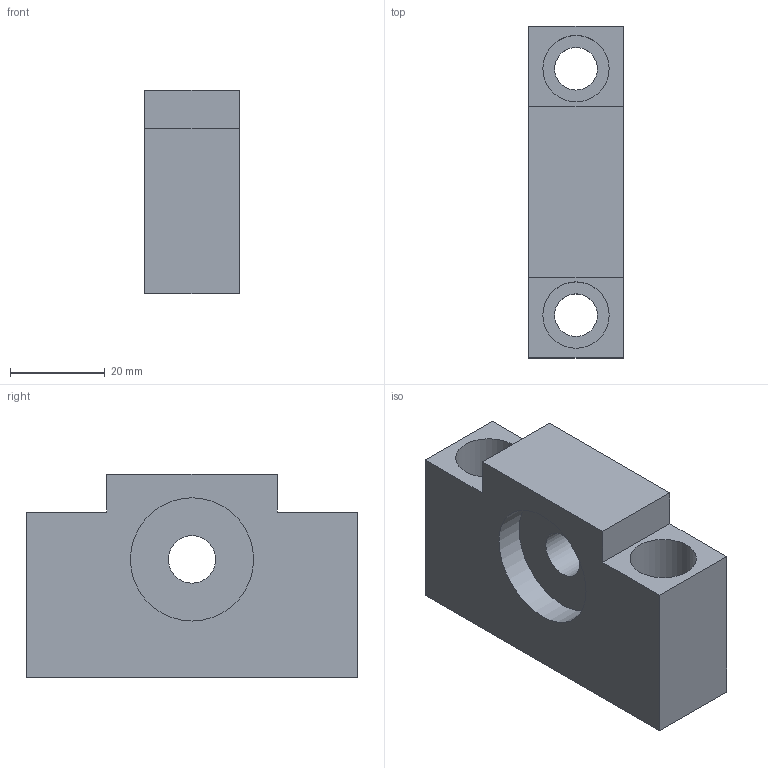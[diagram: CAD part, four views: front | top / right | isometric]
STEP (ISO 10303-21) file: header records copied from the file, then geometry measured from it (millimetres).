
FILE_DESCRIPTION((''),'2;1');
FILE_NAME('D:\製品 (図面)\カタログ用3D\ネジ関連\STEP形式\FH\FH12.stp','2010-06-01T16:43:39',('Tsuchiya'),(''),'Autodesk Inventor 10','Autodesk Inventor 10','');
FILE_SCHEMA(('AUTOMOTIVE_DESIGN { 1 0 10303 214 1 1 1 1 }'));
Length unit declared in the file: millimetre
Products named in the file (1): FH12
Bounding box: 20 x 70 x 43 mm (x, y, z)
Volume: 41321.3 mm3; surface area: 13140.2 mm2
Topology: 1 solids, 1 shells, 21 faces, 45 edges, 30 vertices
Faces by surface type: plane 12, bspline 6, cylinder 3
Full cylindrical faces by diameter (mm): 10 x1, 26 x2
Entity records: 625 total; most frequent: CARTESIAN_POINT 164, DIRECTION 84, ORIENTED_EDGE 76, EDGE_CURVE 38, EDGE_LOOP 38, AXIS2_PLACEMENT_3D 30, VERTEX_POINT 30, VECTOR 24
